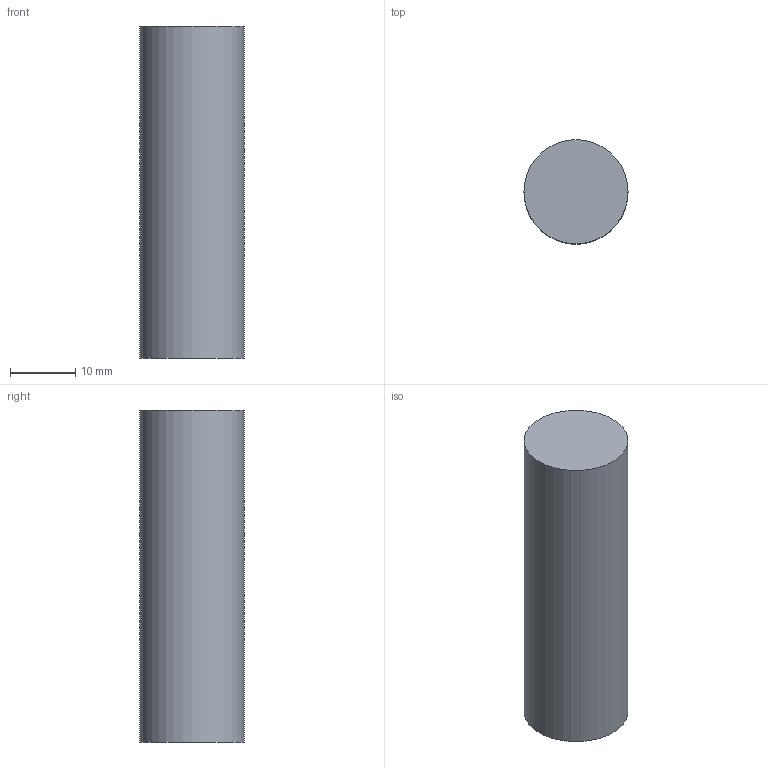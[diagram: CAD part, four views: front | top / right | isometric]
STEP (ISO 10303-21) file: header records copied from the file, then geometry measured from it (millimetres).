
FILE_DESCRIPTION(('Open CASCADE Model'),'2;1');
FILE_NAME('Open CASCADE Shape Model','2026-10-19T10:09:22',('Author'),( 'Open CASCADE'),'Open CASCADE STEP processor 8.0','Open CASCADE 8.0' ,'Unknown');
FILE_SCHEMA(('AUTOMOTIVE_DESIGN { 1 0 10303 214 1 1 1 1 }'));
Length unit declared in the file: millimetre
Products named in the file (1): TOPE_ACE_FIJACION_M16_L51_ENVELOPE_REF 150
Bounding box: 16 x 16 x 51 mm (x, y, z)
Volume: 10254.2 mm3; surface area: 2965.7 mm2
Topology: 1 solids, 1 shells, 3 faces, 3 edges, 2 vertices
Faces by surface type: plane 2, cylinder 1
Full cylindrical faces by diameter (mm): 16 x1
Entity records: 108 total; most frequent: DIRECTION 19, CARTESIAN_POINT 15, AXIS2_PLACEMENT_3D 6, ORIENTED_EDGE 6, PCURVE 6, DEFINITIONAL_REPRESENTATION 6, LINE 5, VECTOR 5
